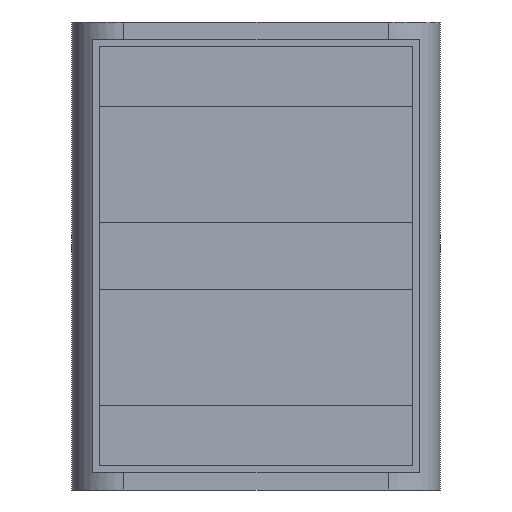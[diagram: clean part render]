
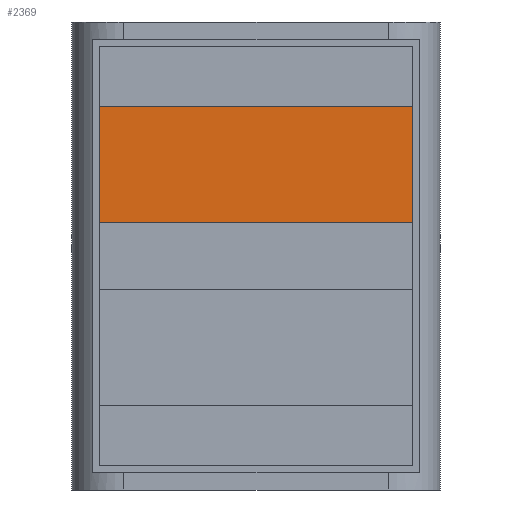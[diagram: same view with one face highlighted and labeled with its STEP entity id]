
A CAD part, front view. The second image highlights one B-rep face of the part: STEP entity #2369.
In plain terms, the highlighted planar face has unit normal (0, -1, 0).
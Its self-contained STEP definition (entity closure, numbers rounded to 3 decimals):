
#208 = VERTEX_POINT ( 'NONE', #5358 ) ;
#263 = PLANE ( 'NONE',  #2026 ) ;
#479 = VERTEX_POINT ( 'NONE', #5167 ) ;
#675 = VECTOR ( 'NONE', #4293, 1000. ) ;
#1094 = LINE ( 'NONE', #3458, #675 ) ;
#1240 = VERTEX_POINT ( 'NONE', #4874 ) ;
#1371 = LINE ( 'NONE', #4674, #1862 ) ;
#1559 = CARTESIAN_POINT ( 'NONE',  ( 47.05, -17.2, 44.9 ) ) ;
#1610 = ORIENTED_EDGE ( 'NONE', *, *, #2666, .T. ) ;
#1862 = VECTOR ( 'NONE', #2093, 1000. ) ;
#1981 = FACE_OUTER_BOUND ( 'NONE', #3344, .T. ) ;
#2026 = AXIS2_PLACEMENT_3D ( 'NONE', #5421, #4210, #3398 ) ;
#2079 = EDGE_CURVE ( 'NONE', #5257, #479, #4930, .T. ) ;
#2093 = DIRECTION ( 'NONE',  ( -1., 0., 0. ) ) ;
#2322 = EDGE_CURVE ( 'NONE', #208, #1240, #2635, .T. ) ;
#2369 = ADVANCED_FACE ( 'NONE', ( #1981 ), #263, .T. ) ;
#2475 = VECTOR ( 'NONE', #5004, 1000. ) ;
#2618 = DIRECTION ( 'NONE',  ( 0., 0., -1. ) ) ;
#2635 = LINE ( 'NONE', #1559, #2475 ) ;
#2666 = EDGE_CURVE ( 'NONE', #1240, #5257, #1371, .T. ) ;
#2701 = EDGE_CURVE ( 'NONE', #479, #208, #1094, .T. ) ;
#3344 = EDGE_LOOP ( 'NONE', ( #5428, #4712, #4701, #1610 ) ) ;
#3398 = DIRECTION ( 'NONE',  ( 0., 0., -1. ) ) ;
#3429 = CARTESIAN_POINT ( 'NONE',  ( -47.05, -17.2, 44.9 ) ) ;
#3458 = CARTESIAN_POINT ( 'NONE',  ( -47.05, -17.2, 10. ) ) ;
#4210 = DIRECTION ( 'NONE',  ( 0., -1., 0. ) ) ;
#4293 = DIRECTION ( 'NONE',  ( 1., 0., 0. ) ) ;
#4327 = CARTESIAN_POINT ( 'NONE',  ( -47.05, -17.2, 44.9 ) ) ;
#4674 = CARTESIAN_POINT ( 'NONE',  ( -47.05, -17.2, 44.9 ) ) ;
#4701 = ORIENTED_EDGE ( 'NONE', *, *, #2322, .T. ) ;
#4712 = ORIENTED_EDGE ( 'NONE', *, *, #2701, .T. ) ;
#4874 = CARTESIAN_POINT ( 'NONE',  ( 47.05, -17.2, 44.9 ) ) ;
#4930 = LINE ( 'NONE', #4327, #5000 ) ;
#5000 = VECTOR ( 'NONE', #2618, 1000. ) ;
#5004 = DIRECTION ( 'NONE',  ( 0., 0., 1. ) ) ;
#5167 = CARTESIAN_POINT ( 'NONE',  ( -47.05, -17.2, 10. ) ) ;
#5257 = VERTEX_POINT ( 'NONE', #3429 ) ;
#5358 = CARTESIAN_POINT ( 'NONE',  ( 47.05, -17.2, 10. ) ) ;
#5421 = CARTESIAN_POINT ( 'NONE',  ( 0., -17.2, 0. ) ) ;
#5428 = ORIENTED_EDGE ( 'NONE', *, *, #2079, .T. ) ;
